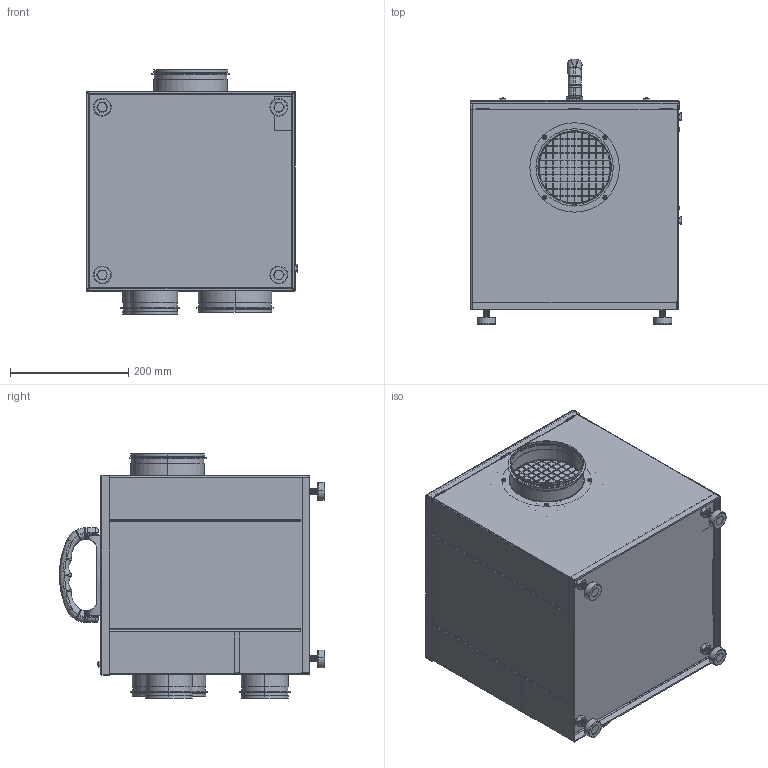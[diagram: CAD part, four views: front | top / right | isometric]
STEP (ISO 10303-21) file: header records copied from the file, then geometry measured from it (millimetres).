
FILE_DESCRIPTION (( 'STEP AP203' ), '1' );
FILE_NAME ('DR-20B Sammanställning.STEP', '2020-04-07T09:31:56', ( '' ), ( '' ), 'SwSTEP 2.0', 'SolidWorks 2017', '' );
FILE_SCHEMA (( 'CONFIG_CONTROL_DESIGN' ));
Products named in the file (1): DR-20B Sammanställning
Bounding box: 357.7 x 447.97 x 412 mm (x, y, z)
Volume: 37887572.6 mm3; surface area: 2170550.8 mm2
Topology: 25 solids, 39 shells, 3934 faces, 9483 edges, 5729 vertices
Faces by surface type: plane 1546, cylinder 1262, cone 672, bspline 232, torus 202, sphere 20
Entity records: 153438 total; most frequent: CARTESIAN_POINT 61228, DIRECTION 19233, ORIENTED_EDGE 18922, EDGE_CURVE 9461, AXIS2_PLACEMENT_3D 6889, VERTEX_POINT 5729, LINE 5455, VECTOR 5455
